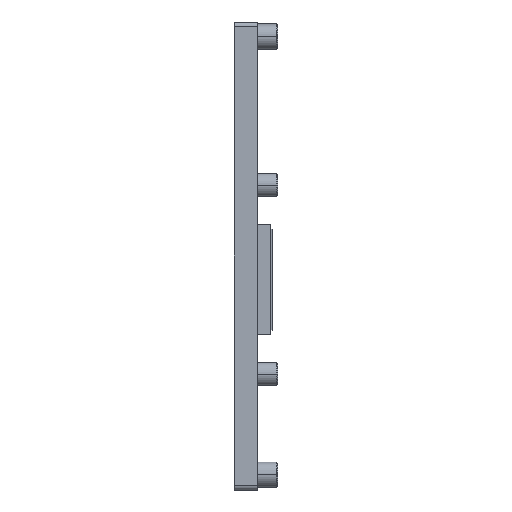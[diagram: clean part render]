
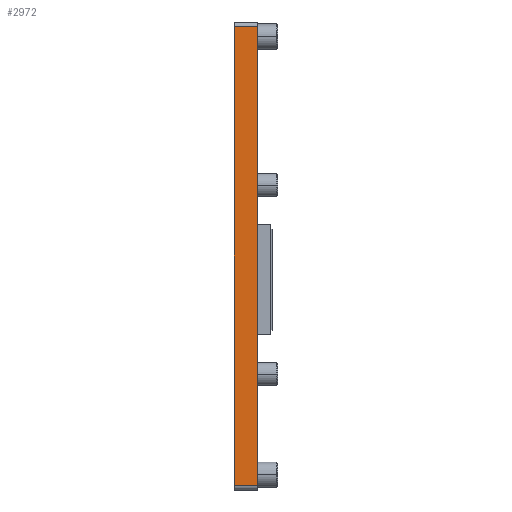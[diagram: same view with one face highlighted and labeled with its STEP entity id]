
A CAD part, left-side view. The second image highlights one B-rep face of the part: STEP entity #2972.
In plain terms, the highlighted planar face has unit normal (-1, 0, 0).
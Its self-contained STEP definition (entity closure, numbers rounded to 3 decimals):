
#210=DIRECTION('',(0.,-1.,0.));
#211=VECTOR('',#210,5.);
#212=CARTESIAN_POINT('',(2064.167,243.172,1.));
#213=LINE('',#212,#211);
#398=DIRECTION('',(0.,1.,0.));
#399=VECTOR('',#398,5.);
#400=CARTESIAN_POINT('',(2064.167,238.172,100.6));
#401=LINE('',#400,#399);
#406=DIRECTION('',(0.,0.,-1.));
#407=VECTOR('',#406,99.6);
#408=CARTESIAN_POINT('',(2064.167,238.172,100.6));
#409=LINE('',#408,#407);
#410=DIRECTION('',(0.,0.,1.));
#411=VECTOR('',#410,99.6);
#412=CARTESIAN_POINT('',(2064.167,243.172,1.));
#413=LINE('',#412,#411);
#2014=CARTESIAN_POINT('',(2064.167,243.172,100.6));
#2015=VERTEX_POINT('',#2014);
#2016=CARTESIAN_POINT('',(2064.167,243.172,1.));
#2017=VERTEX_POINT('',#2016);
#2086=CARTESIAN_POINT('',(2064.167,238.172,1.));
#2087=VERTEX_POINT('',#2086);
#2098=CARTESIAN_POINT('',(2064.167,238.172,100.6));
#2099=VERTEX_POINT('',#2098);
#2961=CARTESIAN_POINT('',(2064.167,242.172,101.6));
#2962=DIRECTION('',(1.,0.,0.));
#2963=DIRECTION('',(0.,0.,-1.));
#2964=AXIS2_PLACEMENT_3D('',#2961,#2962,#2963);
#2965=PLANE('',#2964);
#2966=ORIENTED_EDGE('',*,*,#2768,.T.);
#2967=ORIENTED_EDGE('',*,*,#2746,.F.);
#2968=ORIENTED_EDGE('',*,*,#2635,.T.);
#2969=ORIENTED_EDGE('',*,*,#2954,.F.);
#2970=EDGE_LOOP('',(#2966,#2967,#2968,#2969));
#2971=FACE_OUTER_BOUND('',#2970,.F.);
#2972=ADVANCED_FACE('',(#2971),#2965,.F.);
#2635=EDGE_CURVE('',#2017,#2015,#413,.T.);
#2746=EDGE_CURVE('',#2017,#2087,#213,.T.);
#2768=EDGE_CURVE('',#2099,#2087,#409,.T.);
#2954=EDGE_CURVE('',#2099,#2015,#401,.T.);
